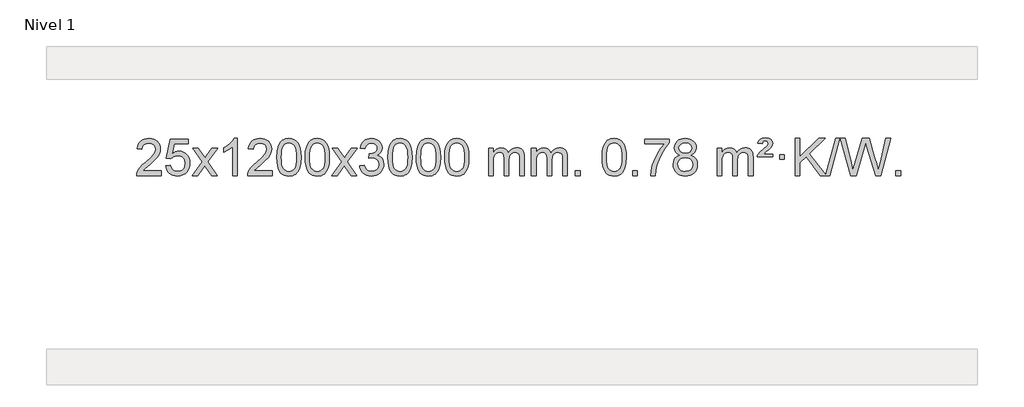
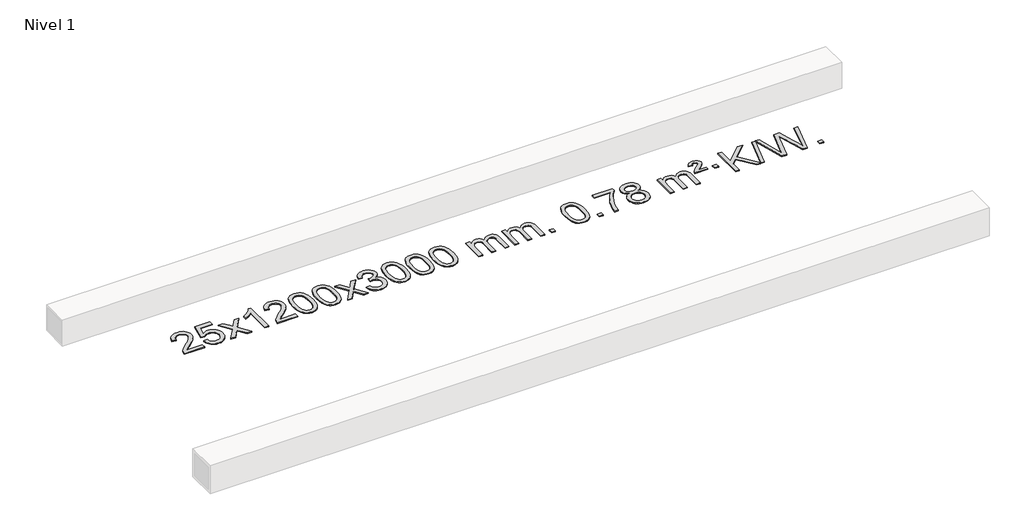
# One storey, part 6 of 6: 1 proxy.
"""IFC4 building model written with IfcOpenShell, lengths in millimetres."""

from ifc_helpers import new_model, si_unit, origin, origin_with_axes, place, context, project, spatial, polyline, outline, extrude, element, save

model = new_model("IFC4")

# Units and contexts
model_context = context("Model", 3, world=origin())
ifc_project = project(units=[si_unit("LENGTHUNIT", "METRE", prefix="MILLI")], contexts=[model_context])

# Site, building, storey
site = spatial("IfcSite", under=ifc_project)
building = spatial("IfcBuilding", under=site)
storey = spatial("IfcBuildingStorey", under=building, Name="Nivel 1", Elevation=0.0)

# Proxy
placement = place(None, origin())
element("IfcBuildingElementProxy", 1, Name="Texto de modelo 1", ObjectType="Texto de modelo 1", at=placement, inside=storey, context=model_context, shape_type="SweptSolid", body=[
    extrude(outline(polyline([(-22453.723944, 2333.9033514), (-22453.723944, 2283.6751963), (-22717.4217581, 2283.6751963), (-22716.3181122, 2301.3580575), (-22712.0261556, 2318.3051548), (-22699.640795, 2345.3690069), (-22681.5164754, 2371.6235186), (-22655.2987519, 2399.1043037), (-22618.6331797, 2429.8469757), (-22564.4318991, 2477.9904662), (-22531.9111307, 2513.5278669), (-22515.6507465, 2542.3698153), (-22510.2306185, 2570.4269488), (-22515.3441782, 2595.5778145), (-22530.6848574, 2616.4857746), (-22554.2660933, 2630.575655), (-22584.1013231, 2635.2722818), (-22615.4326064, 2630.6860196), (-22639.7741317, 2616.927233), (-22655.4826929, 2595.0750425), (-22660.9150837, 2566.2085686), (-22711.1432388, 2572.487088), (-22706.823691, 2598.4166373), (-22698.9663447, 2621.0720368), (-22687.5711999, 2640.4532866), (-22672.6382566, 2656.5603866), (-22654.5108713, 2669.2216586), (-22633.5324005, 2678.2654243), (-22609.7028443, 2683.6916838), (-22583.0222026, 2685.5004369), (-22556.1024376, 2683.4893487), (-22532.1441226, 2677.4560839), (-22511.1472578, 2667.4006427), (-22493.111843, 2653.3230251), (-22478.6264894, 2636.2655632), (-22468.2798083, 2617.2705895), (-22462.0717996, 2596.338104), (-22460.0024634, 2573.4681066), (-22462.2342808, 2549.4454124), (-22468.9297331, 2525.839651), (-22480.8123216, 2501.8292194), (-22498.6055474, 2476.5925146), (-22526.9692492, 2446.4629792), (-22570.5632657, 2407.774056), (-22628.3452644, 2359.4588873), (-22651.0067953, 2333.9033514), (-22453.723944, 2333.9033514)])), origin_with_axes(), (0.0, 0.0, 1.0), 10.0),
    extrude(outline(polyline([(-22403.4957889, 2390.4100258), (-22353.2676339, 2396.6885452), (-22344.0460585, 2366.5344844), (-22327.9573526, 2344.9398112), (-22305.0750925, 2331.9535768), (-22275.4728546, 2327.624832), (-22256.3429909, 2329.1300825), (-22239.46947, 2333.645834), (-22224.8522921, 2341.1720865), (-22212.491457, 2351.7088399), (-22202.6628764, 2364.7349283), (-22195.6424617, 2379.7291852), (-22190.0261299, 2415.6222052), (-22195.2868424, 2449.4182979), (-22201.8627331, 2463.3365), (-22211.06898, 2475.2681394), (-22222.93624, 2484.8392026), (-22237.49517, 2491.6756764), (-22274.6880397, 2497.1448554), (-22299.0540905, 2494.9620889), (-22318.7848282, 2488.4137894), (-22334.5424403, 2478.3828736), (-22346.9891145, 2465.7522585), (-22397.2172695, 2472.0307778), (-22353.2676339, 2679.2219175), (-22158.6335329, 2679.2219175), (-22158.6335329, 2628.9937624), (-22312.6534616, 2628.9937624), (-22334.1377701, 2518.3348583), (-22316.4119893, 2531.0390499), (-22298.2570128, 2540.1134724), (-22279.6728407, 2545.5581259), (-22260.6594729, 2547.3730104), (-22236.1983859, 2545.1227989), (-22213.7299931, 2538.3721643), (-22193.2542944, 2527.1211066), (-22174.7712898, 2511.3696259), (-22159.4704645, 2492.0803466), (-22148.5413035, 2470.2158933), (-22141.983807, 2445.7762661), (-22139.7979748, 2418.7614649), (-22141.7661435, 2392.7399451), (-22147.6706495, 2368.5333099), (-22157.5114929, 2346.1415591), (-22171.2886736, 2325.5646928), (-22192.1598454, 2304.4911859), (-22216.5136335, 2289.4386809), (-22244.3500378, 2280.4071779), (-22275.6690583, 2277.3966769), (-22301.5894106, 2279.3311231), (-22325.0020339, 2285.1344616), (-22345.9069283, 2294.8066923), (-22364.3040937, 2308.3478154), (-22379.6110504, 2325.0833805), (-22391.2453185, 2344.3389373), (-22399.206898, 2366.1144857), (-22403.4957889, 2390.4100258)])), origin_with_axes(), (0.0, 0.0, 1.0), 10.0),
    extrude(outline(polyline([(-22114.6838972, 2283.6751963), (-22007.3604565, 2432.0052168), (-22108.4053779, 2578.7656074), (-22047.9746288, 2578.7656074), (-21999.2180017, 2508.1322643), (-21976.4583689, 2474.7776301), (-21956.739894, 2502.0499486), (-21901.2142382, 2578.7656074), (-21840.7834891, 2578.7656074), (-21946.9297074, 2432.0052168), (-21844.7075637, 2283.6751963), (-21905.1383128, 2283.6751963), (-21966.6481824, 2372.8497919), (-21977.9298969, 2389.1347016), (-22054.2531482, 2283.6751963), (-22114.6838972, 2283.6751963)])), origin_with_axes(), (0.0, 0.0, 1.0), 10.0),
    extrude(outline(polyline([(-21624.9593853, 2283.6751963), (-21675.1875403, 2283.6751963), (-21675.1875403, 2596.8163506), (-21696.1568141, 2579.8569906), (-21722.7669451, 2562.9221561), (-21775.6438505, 2537.5628239), (-21775.6438505, 2585.0441268), (-21736.1946379, 2606.5039098), (-21702.0184005, 2632.0349203), (-21675.0771757, 2659.1846115), (-21657.3330008, 2685.5004369), (-21624.9593853, 2685.5004369), (-21624.9593853, 2283.6751963)])), origin_with_axes(), (0.0, 0.0, 1.0), 10.0),
    extrude(outline(polyline([(-21248.2482222, 2333.9033514), (-21248.2482222, 2283.6751963), (-21511.9460364, 2283.6751963), (-21510.8423904, 2301.3580575), (-21506.5504338, 2318.3051548), (-21494.1650733, 2345.3690069), (-21476.0407536, 2371.6235186), (-21449.8230301, 2399.1043037), (-21413.1574579, 2429.8469757), (-21358.9561773, 2477.9904662), (-21326.4354089, 2513.5278669), (-21310.1750247, 2542.3698153), (-21304.7548967, 2570.4269488), (-21309.8684564, 2595.5778145), (-21325.2091356, 2616.4857746), (-21348.7903715, 2630.575655), (-21378.6256013, 2635.2722818), (-21409.9568846, 2630.6860196), (-21434.2984099, 2616.927233), (-21450.0069711, 2595.0750425), (-21455.4393619, 2566.2085686), (-21505.667517, 2572.487088), (-21501.3479692, 2598.4166373), (-21493.4906229, 2621.0720368), (-21482.0954781, 2640.4532866), (-21467.1625348, 2656.5603866), (-21449.0351495, 2669.2216586), (-21428.0566787, 2678.2654243), (-21404.2271225, 2683.6916838), (-21377.5464808, 2685.5004369), (-21350.6267158, 2683.4893487), (-21326.6684008, 2677.4560839), (-21305.671536, 2667.4006427), (-21287.6361212, 2653.3230251), (-21273.1507676, 2636.2655632), (-21262.8040865, 2617.2705895), (-21256.5960778, 2596.338104), (-21254.5267416, 2573.4681066), (-21256.758559, 2549.4454124), (-21263.4540113, 2525.839651), (-21275.3365998, 2501.8292194), (-21293.1298256, 2476.5925146), (-21321.4935274, 2446.4629792), (-21365.0875439, 2407.774056), (-21422.8695426, 2359.4588873), (-21445.5310735, 2333.9033514), (-21248.2482222, 2333.9033514)])), origin_with_axes(), (0.0, 0.0, 1.0), 10.0),
    extrude(outline(polyline([(-21198.0200671, 2481.350455), (-21194.3289844, 2545.6684905), (-21183.2557364, 2596.9635034), (-21164.9106876, 2636.0203086), (-21153.0526246, 2651.2536888), (-21139.4042026, 2663.6237209), (-21123.9194363, 2673.1947842), (-21106.5523404, 2680.0312579), (-21066.1711601, 2685.5004369), (-21035.2200215, 2682.2630753), (-21007.5062446, 2672.5509907), (-20984.3296789, 2656.7443276), (-20966.9901742, 2635.2232309), (-20953.8935751, 2608.1716415), (-20943.4457265, 2575.7735005), (-20936.6031214, 2534.6320307), (-20934.322253, 2481.350455), (-20937.9765475, 2417.4003016), (-20948.9394309, 2366.227916), (-20967.1741152, 2327.1343227), (-20979.004587, 2311.8549571), (-20992.643812, 2299.4205457), (-21008.1469724, 2289.7851031), (-21025.5692505, 2282.9026441), (-21066.1711601, 2277.3966769), (-21093.8358861, 2279.7879099), (-21118.3613524, 2286.9616088), (-21139.7475591, 2298.9177736), (-21157.9945061, 2315.6564044), (-21175.505689, 2345.9146985), (-21188.0136769, 2383.6164717), (-21195.5184696, 2428.7617238), (-21198.0200671, 2481.350455)]), holes=[polyline([(-21147.7919121, 2481.4485569), (-21146.3203841, 2437.7840298), (-21141.9058001, 2402.4397671), (-21134.5481602, 2375.4157689), (-21124.2474644, 2356.7120351), (-21111.7885275, 2343.9863837), (-21097.9561644, 2334.8966328), (-21082.7503753, 2329.4427822), (-21066.1711601, 2327.624832), (-21049.5919448, 2329.4489136), (-21034.3861557, 2334.9211582), (-21020.5537927, 2344.041566), (-21008.0948558, 2356.8101369), (-20997.7941599, 2375.5445276), (-20990.43652, 2402.5623944), (-20986.021936, 2437.8637375), (-20984.5504081, 2481.4485569), (-20985.9728851, 2523.9573215), (-20990.2403163, 2558.6792504), (-20997.3527015, 2585.6143438), (-21007.3100408, 2604.7626017), (-21019.5605113, 2618.1105868), (-21033.5522898, 2627.6448618), (-21049.2853765, 2633.3654268), (-21066.7597713, 2635.2722818), (-21083.2531474, 2633.5922874), (-21098.2014191, 2628.5523041), (-21111.6045865, 2620.1523318), (-21123.4626494, 2608.3923707), (-21134.1067018, 2587.5457243), (-21141.7095964, 2559.4395399), (-21146.2713331, 2524.0738174), (-21147.7919121, 2481.4485569)])]), origin_with_axes(), (0.0, 0.0, 1.0), 10.0),
    extrude(outline(polyline([(-20890.3726173, 2481.350455), (-20886.6815346, 2545.6684905), (-20875.6082866, 2596.9635034), (-20857.2632377, 2636.0203086), (-20845.4051748, 2651.2536888), (-20831.7567527, 2663.6237209), (-20816.2719864, 2673.1947842), (-20798.9048906, 2680.0312579), (-20758.5237102, 2685.5004369), (-20727.5725717, 2682.2630753), (-20699.8587947, 2672.5509907), (-20676.682229, 2656.7443276), (-20659.3427243, 2635.2232309), (-20646.2461253, 2608.1716415), (-20635.7982766, 2575.7735005), (-20628.9556715, 2534.6320307), (-20626.6748032, 2481.350455), (-20630.3290976, 2417.4003016), (-20641.2919811, 2366.227916), (-20659.5266653, 2327.1343227), (-20671.3571372, 2311.8549571), (-20684.9963621, 2299.4205457), (-20700.4995225, 2289.7851031), (-20717.9218007, 2282.9026441), (-20758.5237102, 2277.3966769), (-20786.1884363, 2279.7879099), (-20810.7139026, 2286.9616088), (-20832.1001093, 2298.9177736), (-20850.3470562, 2315.6564044), (-20867.8582392, 2345.9146985), (-20880.366227, 2383.6164717), (-20887.8710197, 2428.7617238), (-20890.3726173, 2481.350455)]), holes=[polyline([(-20840.1444622, 2481.4485569), (-20838.6729342, 2437.7840298), (-20834.2583503, 2402.4397671), (-20826.9007104, 2375.4157689), (-20816.6000145, 2356.7120351), (-20804.1410776, 2343.9863837), (-20790.3087146, 2334.8966328), (-20775.1029255, 2329.4427822), (-20758.5237102, 2327.624832), (-20741.944495, 2329.4489136), (-20726.7387058, 2334.9211582), (-20712.9063428, 2344.041566), (-20700.4474059, 2356.8101369), (-20690.1467101, 2375.5445276), (-20682.7890702, 2402.5623944), (-20678.3744862, 2437.8637375), (-20676.9029582, 2481.4485569), (-20678.3254353, 2523.9573215), (-20682.5928664, 2558.6792504), (-20689.7052517, 2585.6143438), (-20699.662591, 2604.7626017), (-20711.9130614, 2618.1105868), (-20725.90484, 2627.6448618), (-20741.6379267, 2633.3654268), (-20759.1123214, 2635.2722818), (-20775.6056975, 2633.5922874), (-20790.5539693, 2628.5523041), (-20803.9571366, 2620.1523318), (-20815.8151996, 2608.3923707), (-20826.459252, 2587.5457243), (-20834.0621466, 2559.4395399), (-20838.6238833, 2524.0738174), (-20840.1444622, 2481.4485569)])]), origin_with_axes(), (0.0, 0.0, 1.0), 10.0),
    extrude(outline(polyline([(-20601.5607256, 2283.6751963), (-20494.2372849, 2432.0052168), (-20595.2822062, 2578.7656074), (-20534.8514572, 2578.7656074), (-20486.0948301, 2508.1322643), (-20463.3351973, 2474.7776301), (-20443.6167224, 2502.0499486), (-20388.0910666, 2578.7656074), (-20327.6603175, 2578.7656074), (-20433.8065358, 2432.0052168), (-20331.5843921, 2283.6751963), (-20392.0151412, 2283.6751963), (-20453.5250108, 2372.8497919), (-20464.8067253, 2389.1347016), (-20541.1299765, 2283.6751963), (-20601.5607256, 2283.6751963)])), origin_with_axes(), (0.0, 0.0, 1.0), 10.0),
    extrude(outline(polyline([(-20300.1917952, 2390.4100258), (-20249.9636401, 2396.6885452), (-20238.7187138, 2365.12427), (-20222.2498631, 2343.8116398), (-20199.7477478, 2331.6715339), (-20170.4030273, 2327.624832), (-20135.9692725, 2333.1921129), (-20121.6954511, 2340.1512139), (-20109.383667, 2349.8939554), (-20092.3875188, 2374.8118292), (-20086.7221361, 2405.0272038), (-20092.3384679, 2433.7097367), (-20109.1874633, 2456.9721415), (-20134.6939483, 2472.3863971), (-20166.2827489, 2477.5244823), (-20201.5013186, 2472.0307778), (-20195.9095123, 2522.2589329), (-20187.8651593, 2521.6703217), (-20157.7724121, 2525.2755653), (-20130.8679755, 2536.0912959), (-20119.7947275, 2544.270539), (-20111.8852646, 2554.3872938), (-20107.1395868, 2566.4415605), (-20105.5576943, 2580.4333391), (-20110.1439565, 2602.1261141), (-20123.9027431, 2619.7231362), (-20144.8965423, 2631.3849954), (-20171.1878422, 2635.2722818), (-20197.5281931, 2631.3482072), (-20219.0615525, 2619.5759834), (-20234.7823764, 2599.9556103), (-20243.6851207, 2572.487088), (-20293.9132758, 2578.7656074), (-20287.9597188, 2602.7453821), (-20279.1244196, 2623.86794), (-20267.407378, 2642.133281), (-20252.8085942, 2657.5414053), (-20235.7879205, 2669.7734816), (-20216.8052096, 2678.510679), (-20195.8604613, 2683.7529974), (-20172.9536758, 2685.5004369), (-20141.3771379, 2682.0546089), (-20112.3757739, 2671.7171248), (-20087.923884, 2655.4076897), (-20069.9957681, 2634.0460085), (-20058.9960964, 2609.434703), (-20055.3295392, 2583.376395), (-20058.8121554, 2559.0961834), (-20069.2600041, 2537.0723146), (-20086.5259324, 2518.3103328), (-20110.4627875, 2503.8157822), (-20079.0211397, 2491.1115907), (-20055.7219466, 2469.4801293), (-20041.3009724, 2440.0986207), (-20036.493981, 2404.144287), (-20038.8974767, 2378.6623275), (-20046.1079638, 2355.1914562), (-20058.1254423, 2333.7316731), (-20074.9499123, 2314.2829783), (-20095.4470708, 2298.1452214), (-20118.482615, 2286.6182523), (-20144.0565451, 2279.7020708), (-20172.1688608, 2277.3966769), (-20197.577244, 2279.3648456), (-20220.7292842, 2285.2693516), (-20241.6249815, 2295.110195), (-20260.264336, 2308.8873757), (-20275.8931894, 2325.7915534), (-20287.7573837, 2345.0133876), (-20295.856919, 2366.5528785), (-20300.1917952, 2390.4100258)])), origin_with_axes(), (0.0, 0.0, 1.0), 10.0),
    extrude(outline(polyline([(-19992.5443453, 2481.350455), (-19988.8532627, 2545.6684905), (-19977.7800146, 2596.9635034), (-19959.4349658, 2636.0203086), (-19947.5769028, 2651.2536888), (-19933.9284808, 2663.6237209), (-19918.4437145, 2673.1947842), (-19901.0766186, 2680.0312579), (-19860.6954383, 2685.5004369), (-19829.7442997, 2682.2630753), (-19802.0305228, 2672.5509907), (-19778.8539571, 2656.7443276), (-19761.5144524, 2635.2232309), (-19748.4178533, 2608.1716415), (-19737.9700047, 2575.7735005), (-19731.1273996, 2534.6320307), (-19728.8465312, 2481.350455), (-19732.5008257, 2417.4003016), (-19743.4637091, 2366.227916), (-19761.6983934, 2327.1343227), (-19773.5288652, 2311.8549571), (-19787.1680902, 2299.4205457), (-19802.6712506, 2289.7851031), (-19820.0935287, 2282.9026441), (-19860.6954383, 2277.3966769), (-19888.3601643, 2279.7879099), (-19912.8856306, 2286.9616088), (-19934.2718373, 2298.9177736), (-19952.5187843, 2315.6564044), (-19970.0299672, 2345.9146985), (-19982.5379551, 2383.6164717), (-19990.0427478, 2428.7617238), (-19992.5443453, 2481.350455)]), holes=[polyline([(-19942.3161903, 2481.4485569), (-19940.8446623, 2437.7840298), (-19936.4300783, 2402.4397671), (-19929.0724384, 2375.4157689), (-19918.7717426, 2356.7120351), (-19906.3128057, 2343.9863837), (-19892.4804427, 2334.8966328), (-19877.2746535, 2329.4427822), (-19860.6954383, 2327.624832), (-19844.116223, 2329.4489136), (-19828.9104339, 2334.9211582), (-19815.0780709, 2344.041566), (-19802.619134, 2356.8101369), (-19792.3184381, 2375.5445276), (-19784.9607982, 2402.5623944), (-19780.5462143, 2437.8637375), (-19779.0746863, 2481.4485569), (-19780.4971633, 2523.9573215), (-19784.7645945, 2558.6792504), (-19791.8769797, 2585.6143438), (-19801.834319, 2604.7626017), (-19814.0847895, 2618.1105868), (-19828.076568, 2627.6448618), (-19843.8096547, 2633.3654268), (-19861.2840495, 2635.2722818), (-19877.7774256, 2633.5922874), (-19892.7256973, 2628.5523041), (-19906.1288647, 2620.1523318), (-19917.9869276, 2608.3923707), (-19928.63098, 2587.5457243), (-19936.2338746, 2559.4395399), (-19940.7956114, 2524.0738174), (-19942.3161903, 2481.4485569)])]), origin_with_axes(), (0.0, 0.0, 1.0), 10.0),
    extrude(outline(polyline([(-19684.8968955, 2481.350455), (-19681.2058128, 2545.6684905), (-19670.1325648, 2596.9635034), (-19651.7875159, 2636.0203086), (-19639.929453, 2651.2536888), (-19626.2810309, 2663.6237209), (-19610.7962646, 2673.1947842), (-19593.4291688, 2680.0312579), (-19553.0479884, 2685.5004369), (-19522.0968499, 2682.2630753), (-19494.3830729, 2672.5509907), (-19471.2065072, 2656.7443276), (-19453.8670025, 2635.2232309), (-19440.7704035, 2608.1716415), (-19430.3225548, 2575.7735005), (-19423.4799497, 2534.6320307), (-19421.1990814, 2481.350455), (-19424.8533758, 2417.4003016), (-19435.8162593, 2366.227916), (-19454.0509435, 2327.1343227), (-19465.8814154, 2311.8549571), (-19479.5206403, 2299.4205457), (-19495.0238007, 2289.7851031), (-19512.4460789, 2282.9026441), (-19553.0479884, 2277.3966769), (-19580.7127145, 2279.7879099), (-19605.2381808, 2286.9616088), (-19626.6243875, 2298.9177736), (-19644.8713344, 2315.6564044), (-19662.3825174, 2345.9146985), (-19674.8905052, 2383.6164717), (-19682.3952979, 2428.7617238), (-19684.8968955, 2481.350455)]), holes=[polyline([(-19634.6687404, 2481.4485569), (-19633.1972124, 2437.7840298), (-19628.7826285, 2402.4397671), (-19621.4249886, 2375.4157689), (-19611.1242927, 2356.7120351), (-19598.6653558, 2343.9863837), (-19584.8329928, 2334.8966328), (-19569.6272037, 2329.4427822), (-19553.0479884, 2327.624832), (-19536.4687732, 2329.4489136), (-19521.2629841, 2334.9211582), (-19507.430621, 2344.041566), (-19494.9716841, 2356.8101369), (-19484.6709883, 2375.5445276), (-19477.3133484, 2402.5623944), (-19472.8987644, 2437.8637375), (-19471.4272364, 2481.4485569), (-19472.8497135, 2523.9573215), (-19477.1171446, 2558.6792504), (-19484.2295299, 2585.6143438), (-19494.1868692, 2604.7626017), (-19506.4373396, 2618.1105868), (-19520.4291182, 2627.6448618), (-19536.1622049, 2633.3654268), (-19553.6365996, 2635.2722818), (-19570.1299757, 2633.5922874), (-19585.0782475, 2628.5523041), (-19598.4814148, 2620.1523318), (-19610.3394778, 2608.3923707), (-19620.9835302, 2587.5457243), (-19628.5864248, 2559.4395399), (-19633.1481615, 2524.0738174), (-19634.6687404, 2481.4485569)])]), origin_with_axes(), (0.0, 0.0, 1.0), 10.0),
    extrude(outline(polyline([(-19377.2494457, 2481.350455), (-19373.558363, 2545.6684905), (-19362.4851149, 2596.9635034), (-19344.1400661, 2636.0203086), (-19332.2820031, 2651.2536888), (-19318.6335811, 2663.6237209), (-19303.1488148, 2673.1947842), (-19285.7817189, 2680.0312579), (-19245.4005386, 2685.5004369), (-19214.4494001, 2682.2630753), (-19186.7356231, 2672.5509907), (-19163.5590574, 2656.7443276), (-19146.2195527, 2635.2232309), (-19133.1229537, 2608.1716415), (-19122.675105, 2575.7735005), (-19115.8324999, 2534.6320307), (-19113.5516315, 2481.350455), (-19117.205926, 2417.4003016), (-19128.1688095, 2366.227916), (-19146.4034937, 2327.1343227), (-19158.2339655, 2311.8549571), (-19171.8731905, 2299.4205457), (-19187.3763509, 2289.7851031), (-19204.7986291, 2282.9026441), (-19245.4005386, 2277.3966769), (-19273.0652646, 2279.7879099), (-19297.590731, 2286.9616088), (-19318.9769376, 2298.9177736), (-19337.2238846, 2315.6564044), (-19354.7350676, 2345.9146985), (-19367.2430554, 2383.6164717), (-19374.7478481, 2428.7617238), (-19377.2494457, 2481.350455)]), holes=[polyline([(-19327.0212906, 2481.4485569), (-19325.5497626, 2437.7840298), (-19321.1351787, 2402.4397671), (-19313.7775388, 2375.4157689), (-19303.4768429, 2356.7120351), (-19291.017906, 2343.9863837), (-19277.185543, 2334.8966328), (-19261.9797538, 2329.4427822), (-19245.4005386, 2327.624832), (-19228.8213234, 2329.4489136), (-19213.6155342, 2334.9211582), (-19199.7831712, 2344.041566), (-19187.3242343, 2356.8101369), (-19177.0235384, 2375.5445276), (-19169.6658985, 2402.5623944), (-19165.2513146, 2437.8637375), (-19163.7797866, 2481.4485569), (-19165.2022637, 2523.9573215), (-19169.4696948, 2558.6792504), (-19176.58208, 2585.6143438), (-19186.5394194, 2604.7626017), (-19198.7898898, 2618.1105868), (-19212.7816684, 2627.6448618), (-19228.514755, 2633.3654268), (-19245.9891498, 2635.2722818), (-19262.4825259, 2633.5922874), (-19277.4307976, 2628.5523041), (-19290.833965, 2620.1523318), (-19302.692028, 2608.3923707), (-19313.3360804, 2587.5457243), (-19320.9389749, 2559.4395399), (-19325.5007117, 2524.0738174), (-19327.0212906, 2481.4485569)])]), origin_with_axes(), (0.0, 0.0, 1.0), 10.0),
    extrude(outline(polyline([(-18900.0819725, 2283.6751963), (-18900.0819725, 2578.7656074), (-18849.8538174, 2578.7656074), (-18849.8538174, 2530.205184), (-18834.7461301, 2552.5110956), (-18815.3219608, 2569.9854904), (-18792.2434969, 2581.2794677), (-18766.1729262, 2585.0441268), (-18738.23842, 2581.2058913), (-18715.8466693, 2569.6911848), (-18699.1203012, 2551.2602969), (-18688.1819432, 2526.6735169), (-18669.8736826, 2552.2106587), (-18648.990248, 2570.4514743), (-18625.5316395, 2581.3959636), (-18599.4978569, 2585.0441268), (-18579.3900402, 2583.5266135), (-18561.7409015, 2578.9740738), (-18546.5504408, 2571.3865077), (-18533.8186581, 2560.7639151), (-18523.7540198, 2546.9836687), (-18516.5649925, 2529.9231411), (-18512.2515761, 2509.5823325), (-18510.8137706, 2485.9612427), (-18510.8137706, 2283.6751963), (-18561.0419257, 2283.6751963), (-18561.0419257, 2464.3788323), (-18562.2068854, 2489.4315962), (-18565.7017643, 2506.3173798), (-18572.2500638, 2517.8811372), (-18582.5752852, 2526.9678224), (-18595.8558252, 2532.8539344), (-18611.2700808, 2534.8159717), (-18638.4810857, 2529.7882511), (-18660.66437, 2514.7050893), (-18669.269743, 2503.1352005), (-18675.416438, 2488.5364167), (-18680.333794, 2450.2521637), (-18680.333794, 2283.6751963), (-18730.5619491, 2283.6751963), (-18730.5619491, 2469.9706387), (-18733.4682168, 2498.3711287), (-18742.1870201, 2518.6291639), (-18757.5276993, 2530.7692697), (-18780.2995948, 2534.8159717), (-18799.6501878, 2532.1181704), (-18817.4802018, 2524.0247665), (-18832.1954816, 2510.7319637), (-18842.2018719, 2492.4359658), (-18847.940831, 2467.0521082), (-18849.8538174, 2432.4957261), (-18849.8538174, 2283.6751963), (-18900.0819725, 2283.6751963)])), origin_with_axes(), (0.0, 0.0, 1.0), 10.0),
    extrude(outline(polyline([(-18435.471538, 2283.6751963), (-18435.471538, 2578.7656074), (-18385.2433829, 2578.7656074), (-18385.2433829, 2530.205184), (-18370.1356957, 2552.5110956), (-18350.7115263, 2569.9854904), (-18327.6330625, 2581.2794677), (-18301.5624918, 2585.0441268), (-18273.6279856, 2581.2058913), (-18251.2362348, 2569.6911848), (-18234.5098668, 2551.2602969), (-18223.5715088, 2526.6735169), (-18205.2632482, 2552.2106587), (-18184.3798136, 2570.4514743), (-18160.921205, 2581.3959636), (-18134.8874225, 2585.0441268), (-18114.7796058, 2583.5266135), (-18097.1304671, 2578.9740738), (-18081.9400063, 2571.3865077), (-18069.2082236, 2560.7639151), (-18059.1435854, 2546.9836687), (-18051.954558, 2529.9231411), (-18047.6411417, 2509.5823325), (-18046.2033362, 2485.9612427), (-18046.2033362, 2283.6751963), (-18096.4314913, 2283.6751963), (-18096.4314913, 2464.3788323), (-18097.5964509, 2489.4315962), (-18101.0913299, 2506.3173798), (-18107.6396294, 2517.8811372), (-18117.9648507, 2526.9678224), (-18131.2453907, 2532.8539344), (-18146.6596463, 2534.8159717), (-18173.8706512, 2529.7882511), (-18196.0539356, 2514.7050893), (-18204.6593086, 2503.1352005), (-18210.8060036, 2488.5364167), (-18215.7233596, 2450.2521637), (-18215.7233596, 2283.6751963), (-18265.9515146, 2283.6751963), (-18265.9515146, 2469.9706387), (-18268.8577824, 2498.3711287), (-18277.5765857, 2518.6291639), (-18292.9172649, 2530.7692697), (-18315.6891604, 2534.8159717), (-18335.0397533, 2532.1181704), (-18352.8697674, 2524.0247665), (-18367.5850472, 2510.7319637), (-18377.5914374, 2492.4359658), (-18383.3303966, 2467.0521082), (-18385.2433829, 2432.4957261), (-18385.2433829, 2283.6751963), (-18435.471538, 2283.6751963)])), origin_with_axes(), (0.0, 0.0, 1.0), 10.0),
    extrude(outline(polyline([(-17958.3040648, 2283.6751963), (-17958.3040648, 2333.9033514), (-17908.0759097, 2333.9033514), (-17908.0759097, 2283.6751963), (-17958.3040648, 2283.6751963)])), origin_with_axes(), (0.0, 0.0, 1.0), 10.0),
    extrude(outline(polyline([(-17669.4921731, 2481.350455), (-17665.8010904, 2545.6684905), (-17654.7278424, 2596.9635034), (-17636.3827936, 2636.0203086), (-17624.5247306, 2651.2536888), (-17610.8763086, 2663.6237209), (-17595.3915423, 2673.1947842), (-17578.0244464, 2680.0312579), (-17537.6432661, 2685.5004369), (-17506.6921275, 2682.2630753), (-17478.9783506, 2672.5509907), (-17455.8017849, 2656.7443276), (-17438.4622802, 2635.2232309), (-17425.3656811, 2608.1716415), (-17414.9178325, 2575.7735005), (-17408.0752274, 2534.6320307), (-17405.794359, 2481.350455), (-17409.4486535, 2417.4003016), (-17420.4115369, 2366.227916), (-17438.6462212, 2327.1343227), (-17450.476693, 2311.8549571), (-17464.115918, 2299.4205457), (-17479.6190784, 2289.7851031), (-17497.0413565, 2282.9026441), (-17537.6432661, 2277.3966769), (-17565.3079921, 2279.7879099), (-17589.8334584, 2286.9616088), (-17611.2196651, 2298.9177736), (-17629.4666121, 2315.6564044), (-17646.977795, 2345.9146985), (-17659.4857829, 2383.6164717), (-17666.9905756, 2428.7617238), (-17669.4921731, 2481.350455)]), holes=[polyline([(-17619.2640181, 2481.4485569), (-17617.7924901, 2437.7840298), (-17613.3779061, 2402.4397671), (-17606.0202662, 2375.4157689), (-17595.7195704, 2356.7120351), (-17583.2606335, 2343.9863837), (-17569.4282704, 2334.8966328), (-17554.2224813, 2329.4427822), (-17537.6432661, 2327.624832), (-17521.0640508, 2329.4489136), (-17505.8582617, 2334.9211582), (-17492.0258987, 2344.041566), (-17479.5669618, 2356.8101369), (-17469.2662659, 2375.5445276), (-17461.908626, 2402.5623944), (-17457.494042, 2437.8637375), (-17456.0225141, 2481.4485569), (-17457.4449911, 2523.9573215), (-17461.7124223, 2558.6792504), (-17468.8248075, 2585.6143438), (-17478.7821468, 2604.7626017), (-17491.0326173, 2618.1105868), (-17505.0243958, 2627.6448618), (-17520.7574825, 2633.3654268), (-17538.2318772, 2635.2722818), (-17554.7252534, 2633.5922874), (-17569.6735251, 2628.5523041), (-17583.0766925, 2620.1523318), (-17594.9347554, 2608.3923707), (-17605.5788078, 2587.5457243), (-17613.1817024, 2559.4395399), (-17617.7434391, 2524.0738174), (-17619.2640181, 2481.4485569)])]), origin_with_axes(), (0.0, 0.0, 1.0), 10.0),
    extrude(outline(polyline([(-17336.7306458, 2283.6751963), (-17336.7306458, 2333.9033514), (-17286.5024907, 2333.9033514), (-17286.5024907, 2283.6751963), (-17336.7306458, 2283.6751963)])), origin_with_axes(), (0.0, 0.0, 1.0), 10.0),
    extrude(outline(polyline([(-17204.8817387, 2628.9937624), (-17204.8817387, 2679.2219175), (-16941.1839245, 2679.2219175), (-16941.1839245, 2638.6077453), (-16978.7692017, 2591.0406033), (-17015.9865969, 2530.5485405), (-17048.8139336, 2462.649787), (-17073.2290353, 2392.8625725), (-17085.1974629, 2340.6478546), (-17091.8683898, 2283.6751963), (-17142.0965448, 2283.6751963), (-17136.664154, 2335.4484558), (-17122.1328152, 2396.9828508), (-17098.8949359, 2462.2083286), (-17067.3429234, 2525.0548361), (-17030.505673, 2581.8680789), (-16991.4120796, 2628.9937624), (-17204.8817387, 2628.9937624)])), origin_with_axes(), (0.0, 0.0, 1.0), 10.0),
    extrude(outline(polyline([(-16824.0502973, 2504.9930046), (-16850.9424711, 2518.2367564), (-16869.8148175, 2536.1893978), (-16880.9616419, 2558.4830467), (-16884.6772501, 2584.7498212), (-16882.6538991, 2605.2347169), (-16876.5838462, 2624.0150928), (-16866.4670913, 2641.0909487), (-16852.3036345, 2656.4622848), (-16834.7740574, 2669.1664763), (-16814.5589418, 2678.2408989), (-16791.6582876, 2683.6855524), (-16766.0720948, 2685.5004369), (-16740.3632747, 2683.6426328), (-16717.2909423, 2678.0692206), (-16696.8550974, 2668.7802002), (-16679.0557402, 2655.7755717), (-16664.634766, 2640.1037987), (-16654.3340702, 2622.8133449), (-16648.1536527, 2603.9042104), (-16646.0935135, 2583.376395), (-16649.7600707, 2557.9557492), (-16660.7597424, 2536.042245), (-16679.2151558, 2518.1999682), (-16705.2489383, 2504.9930046), (-16674.334588, 2489.0637142), (-16651.8324726, 2465.6051057), (-16638.1104742, 2435.7453504), (-16633.5364747, 2400.6126198), (-16635.8050803, 2375.559856), (-16642.6108973, 2352.5917567), (-16653.9539254, 2331.7083221), (-16669.8341649, 2312.9095522), (-16689.4177498, 2297.3726693), (-16711.8708142, 2286.2748957), (-16737.1933582, 2279.6162316), (-16765.3853818, 2277.3966769), (-16793.5774053, 2279.6254287), (-16818.8999493, 2286.3116839), (-16841.3530138, 2297.4554427), (-16860.9365987, 2313.056705), (-16876.8168381, 2331.9872993), (-16888.1598663, 2353.1190543), (-16894.9656832, 2376.4519698), (-16897.2342889, 2401.986046), (-16892.4763484, 2438.4799399), (-16878.202527, 2468.4991107), (-16855.1485886, 2491.0134888), (-16824.0502973, 2504.9930046)]), holes=[polyline([(-16847.0061338, 2403.7518795), (-16844.9092064, 2384.5361766), (-16838.6184243, 2365.9336104), (-16827.005616, 2349.7100144), (-16808.94261, 2337.6312223), (-16787.3111487, 2330.1264296), (-16764.9929743, 2327.624832), (-16730.8044742, 2332.8855445), (-16716.9107976, 2339.4614352), (-16705.1508364, 2348.6676821), (-16689.1111814, 2372.5677491), (-16683.7646298, 2402.1822497), (-16689.2828597, 2432.2995224), (-16705.8375495, 2456.7268868), (-16717.9163417, 2466.1691914), (-16732.0797985, 2472.9136946), (-16766.660706, 2478.3092972), (-16800.3709595, 2472.987271), (-16814.1082864, 2466.3347383), (-16825.7670799, 2457.0211924), (-16841.6963703, 2433.0598118), (-16847.0061338, 2403.7518795)]), polyline([(-16834.449095, 2583.2782932), (-16829.9977229, 2561.3525263), (-16816.6436064, 2543.8413433), (-16794.7791532, 2532.363425), (-16764.7967706, 2528.5374523), (-16735.5133638, 2532.3388996), (-16713.9800043, 2543.7432414), (-16700.7362525, 2560.6658132), (-16696.3216686, 2581.0219503), (-16700.8834053, 2602.1506395), (-16714.5686155, 2619.6250343), (-16736.3962806, 2631.3604699), (-16765.3853818, 2635.2722818), (-16794.558424, 2631.4463091), (-16816.3493008, 2619.9683908), (-16829.9241465, 2603.1439209), (-16834.449095, 2583.2782932)])]), origin_with_axes(), (0.0, 0.0, 1.0), 10.0),
    extrude(outline(polyline([(-16420.0668156, 2283.6751963), (-16420.0668156, 2578.7656074), (-16369.8386606, 2578.7656074), (-16369.8386606, 2530.205184), (-16354.7309733, 2552.5110956), (-16335.306804, 2569.9854904), (-16312.2283401, 2581.2794677), (-16286.1577694, 2585.0441268), (-16258.2232632, 2581.2058913), (-16235.8315125, 2569.6911848), (-16219.1051444, 2551.2602969), (-16208.1667864, 2526.6735169), (-16189.8585258, 2552.2106587), (-16168.9750912, 2570.4514743), (-16145.5164826, 2581.3959636), (-16119.4827001, 2585.0441268), (-16099.3748834, 2583.5266135), (-16081.7257447, 2578.9740738), (-16066.535284, 2571.3865077), (-16053.8035012, 2560.7639151), (-16043.738863, 2546.9836687), (-16036.5498357, 2529.9231411), (-16032.2364193, 2509.5823325), (-16030.7986138, 2485.9612427), (-16030.7986138, 2283.6751963), (-16081.0267689, 2283.6751963), (-16081.0267689, 2464.3788323), (-16082.1917285, 2489.4315962), (-16085.6866075, 2506.3173798), (-16092.234907, 2517.8811372), (-16102.5601283, 2526.9678224), (-16115.8406684, 2532.8539344), (-16131.254924, 2534.8159717), (-16158.4659289, 2529.7882511), (-16180.6492132, 2514.7050893), (-16189.2545862, 2503.1352005), (-16195.4012812, 2488.5364167), (-16200.3186372, 2450.2521637), (-16200.3186372, 2283.6751963), (-16250.5467923, 2283.6751963), (-16250.5467923, 2469.9706387), (-16253.45306, 2498.3711287), (-16262.1718633, 2518.6291639), (-16277.5125425, 2530.7692697), (-16300.284438, 2534.8159717), (-16319.635031, 2532.1181704), (-16337.465045, 2524.0247665), (-16352.1803248, 2510.7319637), (-16362.1867151, 2492.4359658), (-16367.9256742, 2467.0521082), (-16369.8386606, 2432.4957261), (-16369.8386606, 2283.6751963), (-16420.0668156, 2283.6751963)])), origin_with_axes(), (0.0, 0.0, 1.0), 10.0),
    extrude(outline(polyline([(-15986.8489781, 2484.5878166), (-15983.0230054, 2500.4067424), (-15974.6843468, 2516.2747191), (-15953.1755128, 2541.4133221), (-15921.2188302, 2569.1516246), (-15877.0729908, 2606.5284353), (-15869.9360801, 2618.0554045), (-15867.5571098, 2629.8766792), (-15869.4455707, 2641.9677341), (-15875.1109535, 2651.7533952), (-15884.4796816, 2658.2281183), (-15897.4781788, 2660.3863594), (-15909.9125902, 2658.7676786), (-15918.7662835, 2653.9116363), (-15925.1919557, 2644.4448062), (-15930.3423037, 2628.9937624), (-15980.5704587, 2635.2722818), (-15969.7302026, 2660.4844612), (-15953.1019364, 2678.0446951), (-15929.3367595, 2688.345391), (-15897.0857713, 2691.7789563), (-15861.3031159, 2687.6464152), (-15836.5569204, 2675.248792), (-15822.1359461, 2656.9160059), (-15817.3289547, 2634.9779762), (-15821.4247076, 2612.0711907), (-15833.7119663, 2590.4397294), (-15854.2397816, 2570.6231525), (-15890.70915, 2542.566019), (-15916.3137369, 2515.9804135), (-15817.3289547, 2515.9804135), (-15817.3289547, 2484.5878166), (-15986.8489781, 2484.5878166)])), origin_with_axes(), (0.0, 0.0, 1.0), 10.0),
    extrude(outline(polyline([(-15741.9867221, 2459.4737391), (-15741.9867221, 2509.7018941), (-15691.7585671, 2509.7018941), (-15691.7585671, 2459.4737391), (-15741.9867221, 2459.4737391)])), origin_with_axes(), (0.0, 0.0, 1.0), 10.0),
    extrude(outline(polyline([(-15301.1169391, 2283.6751963), (-15454.5482566, 2486.3536502), (-15522.2385437, 2421.8026228), (-15522.2385437, 2283.6751963), (-15572.4666988, 2283.6751963), (-15572.4666988, 2685.5004369), (-15522.2385437, 2685.5004369), (-15522.2385437, 2488.8061968), (-15316.2246264, 2685.5004369), (-15245.9836908, 2685.5004369), (-15418.9372794, 2520.2968956), (-15244.2836696, 2289.7197161), (-15132.9703419, 2685.5004369), (-15087.64728, 2685.5004369), (-15200.660629, 2283.6751963), (-15239.7051714, 2283.6751963), (-15245.9836908, 2283.6751963), (-15301.1169391, 2283.6751963)])), origin_with_axes(), (0.0, 0.0, 1.0), 10.0),
    extrude(outline(polyline([(-14973.1624031, 2283.6751963), (-15082.7421868, 2685.5004369), (-15030.9444019, 2685.5004369), (-14967.3743931, 2421.4102153), (-14947.75402, 2339.8875652), (-14926.7602208, 2411.9924362), (-14847.1015061, 2685.5004369), (-14772.4459866, 2685.5004369), (-14714.565886, 2487.236567), (-14689.7706395, 2413.6601679), (-14671.4991671, 2339.8875652), (-14652.4674052, 2419.0557705), (-14588.3087853, 2685.5004369), (-14536.5110003, 2685.5004369), (-14646.1888858, 2283.6751963), (-14699.8506062, 2283.6751963), (-14796.186638, 2593.6770909), (-14809.6265936, 2636.9400135), (-14824.7342808, 2584.847923), (-14912.5354503, 2283.6751963), (-14973.1624031, 2283.6751963)])), origin_with_axes(), (0.0, 0.0, 1.0), 10.0),
    extrude(outline(polyline([(-14480.0043259, 2283.6751963), (-14480.0043259, 2333.9033514), (-14429.7761708, 2333.9033514), (-14429.7761708, 2283.6751963), (-14480.0043259, 2283.6751963)])), origin_with_axes(), (0.0, 0.0, 1.0), 10.0),
])

save(model, "model.ifc")
